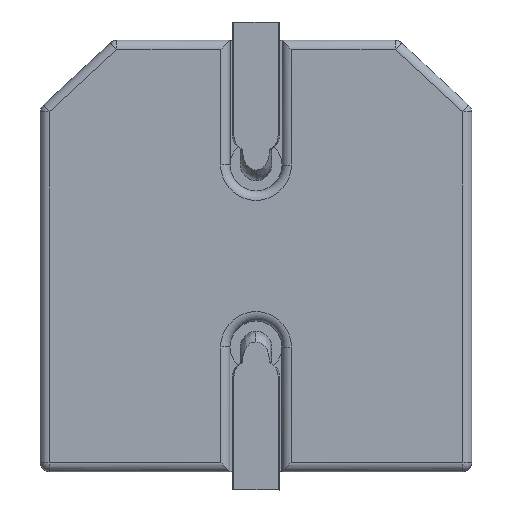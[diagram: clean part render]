
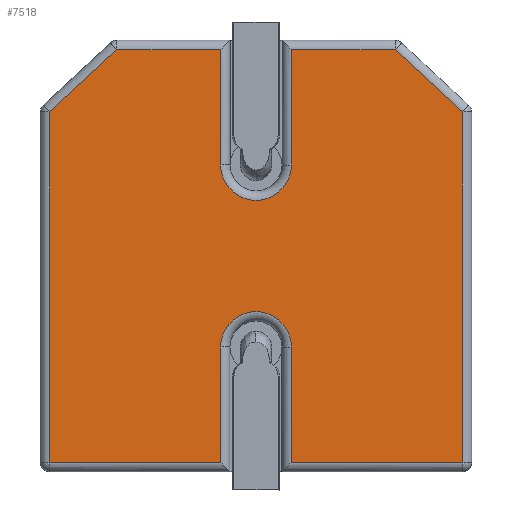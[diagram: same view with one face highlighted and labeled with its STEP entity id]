
A CAD part, left-side view. The second image highlights one B-rep face of the part: STEP entity #7518.
In plain terms, the highlighted planar face has unit normal (-1, 0, 0) as drawn and (0, -1, 0) by its records, which use the part's own axes.
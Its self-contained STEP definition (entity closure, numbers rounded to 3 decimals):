
#6093=DIRECTION('',(-0.733,0.,0.68));
#6094=VECTOR('',#6093,1.761);
#6095=CARTESIAN_POINT('',(3.97,0.,2.772));
#6096=LINE('',#6095,#6094);
#6097=DIRECTION('',(0.,0.,1.));
#6098=VECTOR('',#6097,6.742);
#6099=CARTESIAN_POINT('',(3.97,0.,-3.97));
#6100=LINE('',#6099,#6098);
#6101=DIRECTION('',(1.,0.,0.));
#6102=VECTOR('',#6101,3.29);
#6103=CARTESIAN_POINT('',(0.68,0.,-3.97));
#6104=LINE('',#6103,#6102);
#6105=DIRECTION('',(0.,0.,-1.));
#6106=VECTOR('',#6105,2.22);
#6107=CARTESIAN_POINT('',(0.68,0.,-1.75));
#6108=LINE('',#6107,#6106);
#6109=DIRECTION('',(0.,0.,1.));
#6110=VECTOR('',#6109,2.22);
#6111=CARTESIAN_POINT('',(-0.68,0.,-3.97));
#6112=LINE('',#6111,#6110);
#6113=DIRECTION('',(1.,0.,0.));
#6114=VECTOR('',#6113,3.29);
#6115=CARTESIAN_POINT('',(-3.97,0.,-3.97));
#6116=LINE('',#6115,#6114);
#6117=DIRECTION('',(0.,0.,-1.));
#6118=VECTOR('',#6117,6.742);
#6119=CARTESIAN_POINT('',(-3.97,0.,2.772));
#6120=LINE('',#6119,#6118);
#6121=DIRECTION('',(0.733,0.,0.68));
#6122=VECTOR('',#6121,1.761);
#6123=CARTESIAN_POINT('',(-3.97,0.,2.772));
#6124=LINE('',#6123,#6122);
#6125=DIRECTION('',(-1.,0.,0.));
#6126=VECTOR('',#6125,1.999);
#6127=CARTESIAN_POINT('',(-0.68,0.,3.97));
#6128=LINE('',#6127,#6126);
#6129=DIRECTION('',(0.,0.,1.));
#6130=VECTOR('',#6129,2.22);
#6131=CARTESIAN_POINT('',(-0.68,0.,1.75));
#6132=LINE('',#6131,#6130);
#6133=DIRECTION('',(0.,0.,-1.));
#6134=VECTOR('',#6133,2.22);
#6135=CARTESIAN_POINT('',(0.68,0.,3.97));
#6136=LINE('',#6135,#6134);
#6137=DIRECTION('',(-1.,0.,0.));
#6138=VECTOR('',#6137,1.999);
#6139=CARTESIAN_POINT('',(2.679,0.,3.97));
#6140=LINE('',#6139,#6138);
#6171=CARTESIAN_POINT('',(0.68,0.,3.97));
#6173=CARTESIAN_POINT('',(0.,0.,1.75));
#6174=DIRECTION('',(0.,1.,0.));
#6175=DIRECTION('',(1.,0.,0.));
#6176=AXIS2_PLACEMENT_3D('',#6173,#6174,#6175);
#6255=CARTESIAN_POINT('',(-0.68,0.,-3.97));
#6257=CARTESIAN_POINT('',(0.,0.,-1.75));
#6258=DIRECTION('',(0.,1.,0.));
#6259=DIRECTION('',(-1.,0.,0.));
#6260=AXIS2_PLACEMENT_3D('',#6257,#6258,#6259);
#6277=CARTESIAN_POINT('',(0.68,0.,-3.97));
#7305=CARTESIAN_POINT('',(-3.97,0.,-3.97));
#7307=VERTEX_POINT('',#7305);
#7316=VERTEX_POINT('',#6255);
#7317=CARTESIAN_POINT('',(3.97,0.,-3.97));
#7319=VERTEX_POINT('',#7317);
#7322=VERTEX_POINT('',#6277);
#7341=CARTESIAN_POINT('',(2.679,0.,3.97));
#7343=VERTEX_POINT('',#7341);
#7356=VERTEX_POINT('',#6171);
#7358=CARTESIAN_POINT('',(-2.679,0.,3.97));
#7360=VERTEX_POINT('',#7358);
#7401=CARTESIAN_POINT('',(3.97,0.,2.772));
#7402=VERTEX_POINT('',#7401);
#7403=CARTESIAN_POINT('',(-0.68,0.,3.97));
#7404=VERTEX_POINT('',#7403);
#7451=CARTESIAN_POINT('',(-0.68,0.,-1.75));
#7452=VERTEX_POINT('',#7451);
#7459=CARTESIAN_POINT('',(0.68,0.,-1.75));
#7460=VERTEX_POINT('',#7459);
#7463=CARTESIAN_POINT('',(-3.97,0.,2.772));
#7464=VERTEX_POINT('',#7463);
#7469=CARTESIAN_POINT('',(0.68,0.,1.75));
#7470=VERTEX_POINT('',#7469);
#7477=CARTESIAN_POINT('',(-0.68,0.,1.75));
#7478=VERTEX_POINT('',#7477);
#7483=CARTESIAN_POINT('',(0.,0.,0.));
#7484=DIRECTION('',(0.,1.,0.));
#7485=DIRECTION('',(0.,0.,1.));
#7486=AXIS2_PLACEMENT_3D('',#7483,#7484,#7485);
#7487=PLANE('',#7486);
#7489=ORIENTED_EDGE('',*,*,#7488,.F.);
#7491=ORIENTED_EDGE('',*,*,#7490,.F.);
#7493=ORIENTED_EDGE('',*,*,#7492,.F.);
#7495=ORIENTED_EDGE('',*,*,#7494,.F.);
#7497=ORIENTED_EDGE('',*,*,#7496,.F.);
#7499=ORIENTED_EDGE('',*,*,#7498,.F.);
#7501=ORIENTED_EDGE('',*,*,#7500,.F.);
#7503=ORIENTED_EDGE('',*,*,#7502,.F.);
#7505=ORIENTED_EDGE('',*,*,#7504,.T.);
#7507=ORIENTED_EDGE('',*,*,#7506,.F.);
#7509=ORIENTED_EDGE('',*,*,#7508,.F.);
#7511=ORIENTED_EDGE('',*,*,#7510,.F.);
#7513=ORIENTED_EDGE('',*,*,#7512,.F.);
#7515=ORIENTED_EDGE('',*,*,#7514,.F.);
#7516=EDGE_LOOP('',(#7489,#7491,#7493,#7495,#7497,#7499,#7501,#7503,#7505,#7507,
#7509,#7511,#7513,#7515));
#7517=FACE_OUTER_BOUND('',#7516,.F.);
#7518=ADVANCED_FACE('',(#7517),#7487,.F.);
#6177=CIRCLE('',#6176,0.68);
#6261=CIRCLE('',#6260,0.68);
#7488=EDGE_CURVE('',#7402,#7343,#6096,.T.);
#7490=EDGE_CURVE('',#7319,#7402,#6100,.T.);
#7492=EDGE_CURVE('',#7322,#7319,#6104,.T.);
#7494=EDGE_CURVE('',#7460,#7322,#6108,.T.);
#7496=EDGE_CURVE('',#7452,#7460,#6261,.T.);
#7498=EDGE_CURVE('',#7316,#7452,#6112,.T.);
#7500=EDGE_CURVE('',#7307,#7316,#6116,.T.);
#7502=EDGE_CURVE('',#7464,#7307,#6120,.T.);
#7504=EDGE_CURVE('',#7464,#7360,#6124,.T.);
#7506=EDGE_CURVE('',#7404,#7360,#6128,.T.);
#7508=EDGE_CURVE('',#7478,#7404,#6132,.T.);
#7510=EDGE_CURVE('',#7470,#7478,#6177,.T.);
#7512=EDGE_CURVE('',#7356,#7470,#6136,.T.);
#7514=EDGE_CURVE('',#7343,#7356,#6140,.T.);
